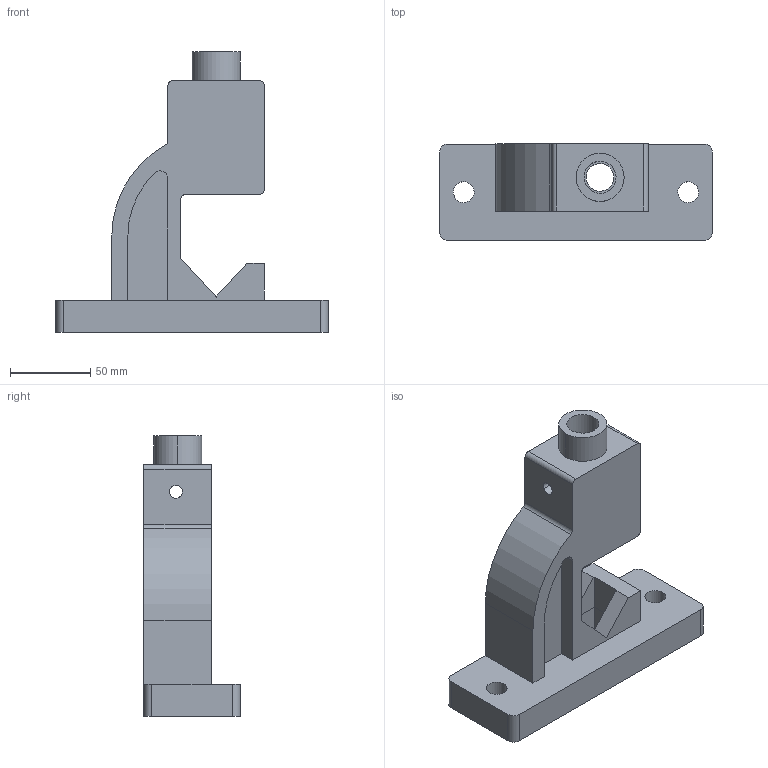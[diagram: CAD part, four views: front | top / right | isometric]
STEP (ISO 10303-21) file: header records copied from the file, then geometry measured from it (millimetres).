
FILE_DESCRIPTION(('CATIA V5 STEP Exchange'),'2;1');
FILE_NAME('D:\Dossier_CATIA_tutoriel\Student_project_etau\Student_project_Bati.stp','2007-05-19T22:02:59+00:00',('none'),('none'),'CATIA Version 5 Release 16 (IN-10)','CATIA V5 STEP AP203','none');
FILE_SCHEMA(('CONFIG_CONTROL_DESIGN'));
Length unit declared in the file: millimetre
Products named in the file (1): Bati
Assembly tree (1 placements, depth 2):
  Bati
    #56
Bounding box: 170 x 60 x 175 mm (x, y, z)
Volume: 444784.8 mm3; surface area: 85771.3 mm2
Topology: 3 solids, 3 shells, 69 faces, 194 edges, 130 vertices
Faces by surface type: plane 41, cylinder 28
Entity records: 2191 total; most frequent: ORIENTED_EDGE 388, CARTESIAN_POINT 378, DIRECTION 302, EDGE_CURVE 194, VECTOR 136, LINE 136, VERTEX_POINT 130, AXIS2_PLACEMENT_3D 112
